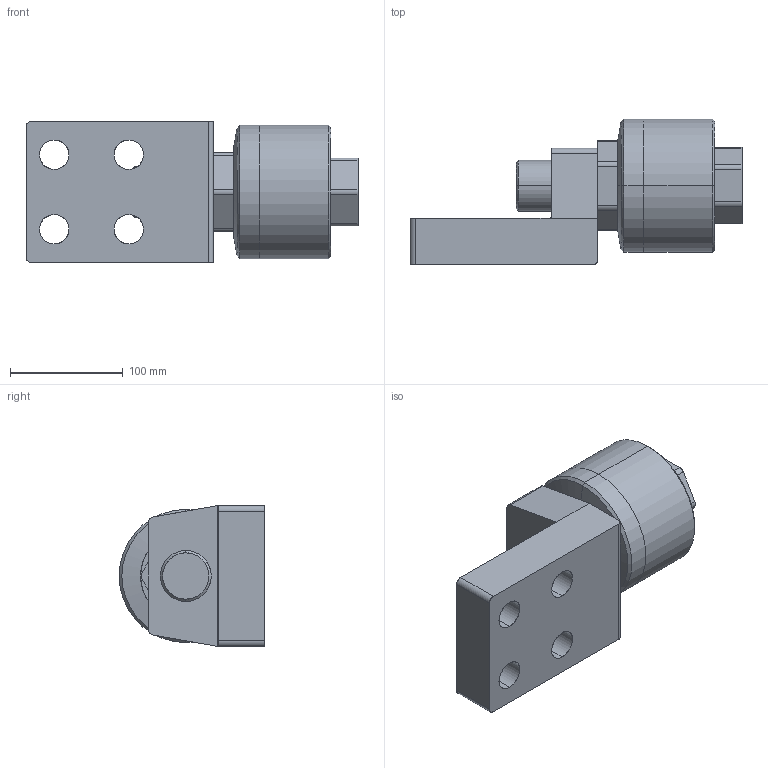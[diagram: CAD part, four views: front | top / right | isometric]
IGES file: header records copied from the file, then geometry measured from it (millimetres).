
Start section: SolidWorks IGES file using analytic representation for surfaces
Global section: file name: C:\Users\Toshiba\Desktop\FCM45-1.5-L.IGS; native system: SolidWorks 2014; preprocessor: SolidWorks 2014; author: Toshiba; date: 160414.100228; units: millimetre
Bounding box: 294 x 129 x 125 mm (x, y, z)
Surface area: 171021.6 mm2 (no closed solid volume)
Topology: 0 solids, 0 shells, 72 faces, 1306 edges, 1306 vertices
Faces by surface type: revolution 44, bspline 28
